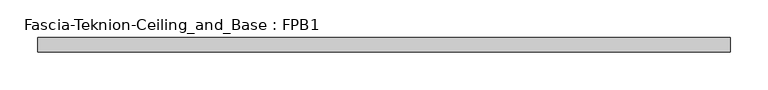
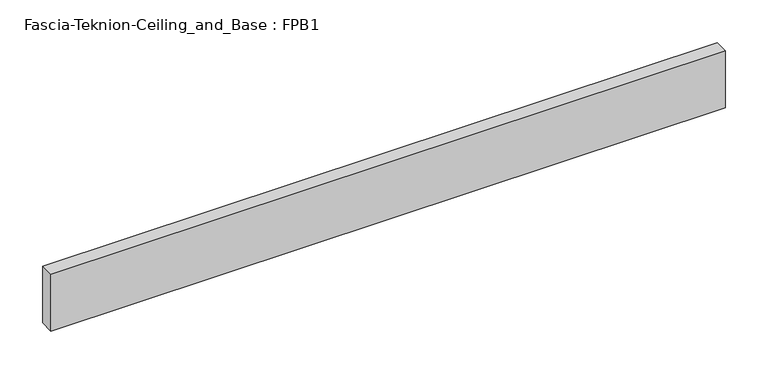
"""IFC4 building model written with IfcOpenShell, lengths in millimetres: proxy geometry, Fascia-Teknion-Ceiling_and_Base : FPB1."""

from ifc_helpers import new_model, si_unit, origin, origin_with_axes, place, context, project, spatial, polyline, outline, extrude, source, transform, mapped, element, save


def fascia_teknion_ceiling_and_base_fpb1_e3f5eff7(model_context):
    return source(origin(), model_context, "Body", "SweptSolid", [
        extrude(outline(polyline([(455.6125, 0.0), (-455.6125, 0.0), (-455.6125, 19.05), (455.6125, 19.05), (455.6125, 0.0)])), origin_with_axes(), (0.0, 0.0, 1.0), 81.28),
    ])


if __name__ == "__main__":
    model = new_model("IFC4")
    model_context = context("Model", 3, world=origin())
    ifc_project = project(units=[si_unit("LENGTHUNIT", "METRE", prefix="MILLI")], contexts=[model_context])
    site = spatial("IfcSite", under=ifc_project)
    building = spatial("IfcBuilding", under=site)
    placement = place(None, origin())
    fascia_teknion_ceiling_and_base_fpb1_shape = fascia_teknion_ceiling_and_base_fpb1_e3f5eff7(model_context)
    element("IfcBuildingElementProxy", 1, Name="Fascia-Teknion-Ceiling_and_Base : FPB1", ObjectType="Fascia-Teknion-Ceiling_and_Base : FPB1", at=placement, inside=building, context=model_context, shape_type="MappedRepresentation", body=[
        mapped(fascia_teknion_ceiling_and_base_fpb1_shape, transform((0.0, 0.0, 0.0), x_axis=(1.0, 0.0, 0.0), y_axis=(0.0, 1.0, 0.0), z_axis=(0.0, 0.0, 1.0))),
    ])
    save(model, "model.ifc")
